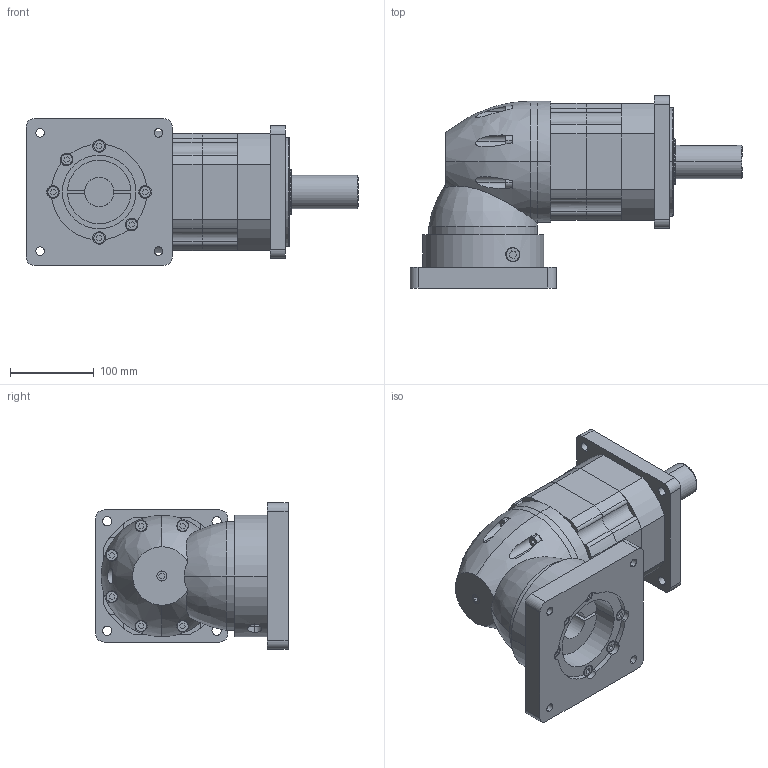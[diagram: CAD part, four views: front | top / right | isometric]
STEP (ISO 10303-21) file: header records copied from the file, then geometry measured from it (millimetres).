
FILE_DESCRIPTION (( 'STEP AP214' ), '1' );
FILE_NAME ('PFR160-L2-S2-P2 35-79 114.3-200-13.5.STEP', '2023-08-29T06:47:36', ( '微软用户' ), ( '微软中国' ), 'SwSTEP 2.0', 'SolidWorks 2018', '' );
FILE_SCHEMA (( 'AUTOMOTIVE_DESIGN' ));
Length unit declared in the file: millimetre
Products named in the file (1): PFR160-L2-S2-P2 35-79 114.3-200-13.5
Bounding box: 397 x 230 x 175 mm (x, y, z)
Volume: 5837594.9 mm3; surface area: 384621.2 mm2
Topology: 3 solids, 3 shells, 445 faces, 1108 edges, 717 vertices
Faces by surface type: plane 218, cylinder 202, bspline 13, cone 12
Entity records: 14554 total; most frequent: CARTESIAN_POINT 3612, DIRECTION 2377, ORIENTED_EDGE 2196, EDGE_CURVE 1098, AXIS2_PLACEMENT_3D 894, VERTEX_POINT 717, LINE 589, VECTOR 589
